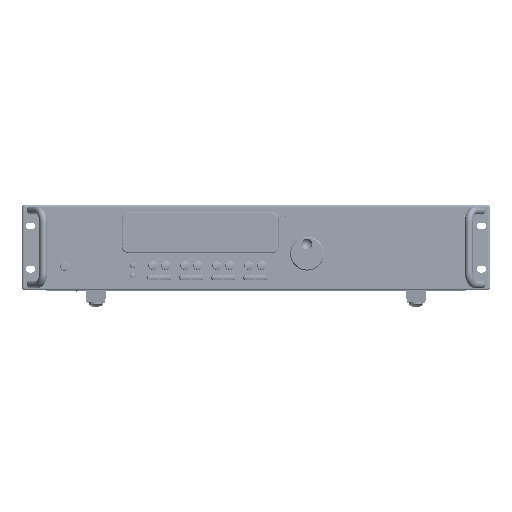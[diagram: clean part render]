
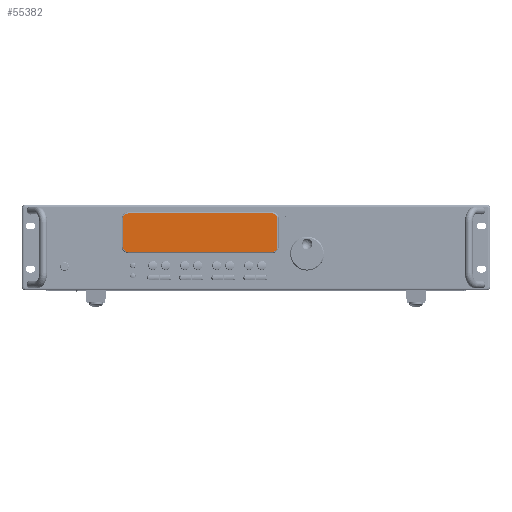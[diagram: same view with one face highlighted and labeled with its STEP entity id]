
A CAD part, top view. The second image highlights one B-rep face of the part: STEP entity #55382.
In plain terms, the highlighted planar face has unit normal (0, 0, 1).
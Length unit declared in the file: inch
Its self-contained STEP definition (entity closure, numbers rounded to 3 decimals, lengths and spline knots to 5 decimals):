
#55121=CARTESIAN_POINT('',(0.25,1.403,0.093));
#55122=DIRECTION('',(0.,0.,-1.));
#55123=DIRECTION('',(-1.,0.,0.));
#55124=AXIS2_PLACEMENT_3D('',#55121,#55122,#55123);
#55126=CARTESIAN_POINT('',(6.118,1.403,0.093));
#55127=DIRECTION('',(0.,0.,-1.));
#55128=DIRECTION('',(0.,1.,0.));
#55129=AXIS2_PLACEMENT_3D('',#55126,#55127,#55128);
#55131=CARTESIAN_POINT('',(6.118,0.25,0.093));
#55132=DIRECTION('',(0.,0.,-1.));
#55133=DIRECTION('',(1.,0.,0.));
#55134=AXIS2_PLACEMENT_3D('',#55131,#55132,#55133);
#55136=CARTESIAN_POINT('',(0.25,0.25,0.093));
#55137=DIRECTION('',(0.,0.,-1.));
#55138=DIRECTION('',(0.,-1.,0.));
#55139=AXIS2_PLACEMENT_3D('',#55136,#55137,#55138);
#55156=DIRECTION('',(0.,-1.,0.));
#55157=VECTOR('',#55156,1.153);
#55158=CARTESIAN_POINT('',(0.05,1.403,0.093));
#55159=LINE('',#55158,#55157);
#55179=DIRECTION('',(1.,0.,0.));
#55180=VECTOR('',#55179,5.868);
#55181=CARTESIAN_POINT('',(0.25,0.05,0.093));
#55182=LINE('',#55181,#55180);
#55202=DIRECTION('',(0.,1.,0.));
#55203=VECTOR('',#55202,1.153);
#55204=CARTESIAN_POINT('',(6.318,0.25,0.093));
#55205=LINE('',#55204,#55203);
#55250=DIRECTION('',(-1.,0.,0.));
#55251=VECTOR('',#55250,5.868);
#55252=CARTESIAN_POINT('',(6.118,1.603,0.093));
#55253=LINE('',#55252,#55251);
#55278=CARTESIAN_POINT('',(6.118,1.603,
0.093));
#55279=CARTESIAN_POINT('',(6.318,1.403,
0.093));
#55280=VERTEX_POINT('',#55278);
#55281=VERTEX_POINT('',#55279);
#55282=CARTESIAN_POINT('',(0.05,1.403,
0.093));
#55283=CARTESIAN_POINT('',(0.25,1.603,
0.093));
#55284=VERTEX_POINT('',#55282);
#55285=VERTEX_POINT('',#55283);
#55286=CARTESIAN_POINT('',(6.318,0.25,0.093));
#55287=VERTEX_POINT('',#55286);
#55288=CARTESIAN_POINT('',(6.118,0.05,
0.093));
#55289=VERTEX_POINT('',#55288);
#55290=CARTESIAN_POINT('',(0.25,0.05,0.093));
#55291=VERTEX_POINT('',#55290);
#55292=CARTESIAN_POINT('',(0.05,0.25,
0.093));
#55293=VERTEX_POINT('',#55292);
#55360=CARTESIAN_POINT('',(0.,0.,0.093));
#55361=DIRECTION('',(0.,0.,1.));
#55362=DIRECTION('',(1.,0.,0.));
#55363=AXIS2_PLACEMENT_3D('',#55360,#55361,#55362);
#55364=PLANE('',#55363);
#55366=ORIENTED_EDGE('',*,*,#55365,.T.);
#55368=ORIENTED_EDGE('',*,*,#55367,.F.);
#55369=ORIENTED_EDGE('',*,*,#55350,.T.);
#55371=ORIENTED_EDGE('',*,*,#55370,.F.);
#55373=ORIENTED_EDGE('',*,*,#55372,.T.);
#55375=ORIENTED_EDGE('',*,*,#55374,.F.);
#55377=ORIENTED_EDGE('',*,*,#55376,.T.);
#55379=ORIENTED_EDGE('',*,*,#55378,.F.);
#55380=EDGE_LOOP('',(#55366,#55368,#55369,#55371,#55373,#55375,#55377,#55379));
#55381=FACE_OUTER_BOUND('',#55380,.F.);
#55382=ADVANCED_FACE('',(#55381),#55364,.T.);
#55125=CIRCLE('',#55124,0.2);
#55130=CIRCLE('',#55129,0.2);
#55135=CIRCLE('',#55134,0.2);
#55140=CIRCLE('',#55139,0.2);
#55350=EDGE_CURVE('',#55280,#55281,#55130,.T.);
#55365=EDGE_CURVE('',#55284,#55285,#55125,.T.);
#55367=EDGE_CURVE('',#55280,#55285,#55253,.T.);
#55370=EDGE_CURVE('',#55287,#55281,#55205,.T.);
#55372=EDGE_CURVE('',#55287,#55289,#55135,.T.);
#55374=EDGE_CURVE('',#55291,#55289,#55182,.T.);
#55376=EDGE_CURVE('',#55291,#55293,#55140,.T.);
#55378=EDGE_CURVE('',#55284,#55293,#55159,.T.);
